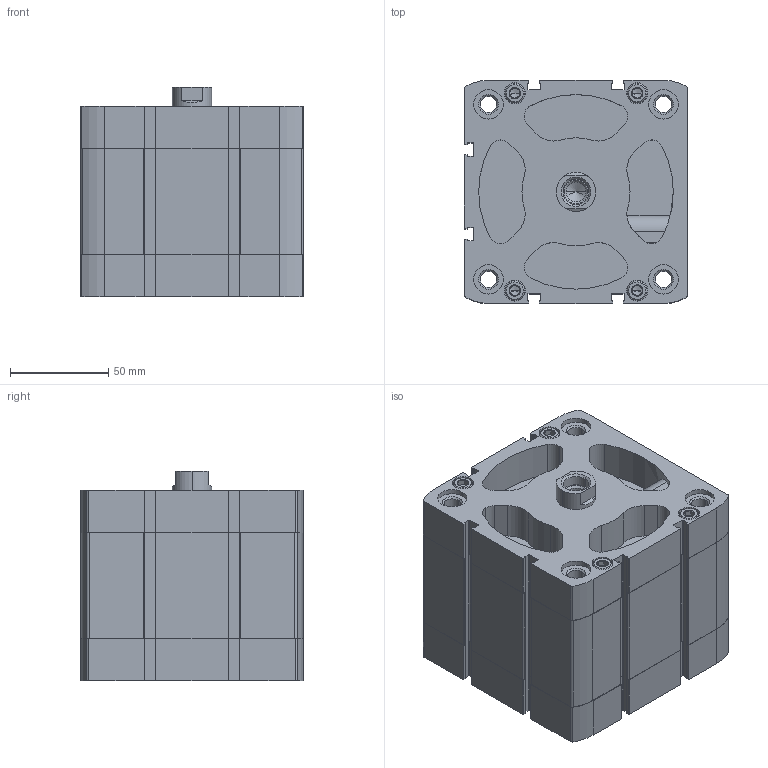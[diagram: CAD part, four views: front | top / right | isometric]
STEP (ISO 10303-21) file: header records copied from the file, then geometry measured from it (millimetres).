
FILE_DESCRIPTION (( 'STEP AP203' ), '1' );
FILE_NAME ('CCN100-30F.STEP', '2020-06-05T18:13:30', ( '' ), ( '' ), 'SwSTEP 2.0', 'SolidWorks 2019', '' );
FILE_SCHEMA (( 'CONFIG_CONTROL_DESIGN' ));
Length unit declared in the file: millimetre
Products named in the file (1): CCN100-30F
Bounding box: 113.5 x 113.5 x 106.8 mm (x, y, z)
Volume: 823573 mm3; surface area: 171320.2 mm2
Topology: 2 solids, 2 shells, 628 faces, 1631 edges, 1043 vertices
Faces by surface type: plane 284, cylinder 270, cone 74
Entity records: 20342 total; most frequent: CARTESIAN_POINT 4507, DIRECTION 3451, ORIENTED_EDGE 3226, EDGE_CURVE 1613, AXIS2_PLACEMENT_3D 1281, VERTEX_POINT 1043, LINE 889, VECTOR 889
